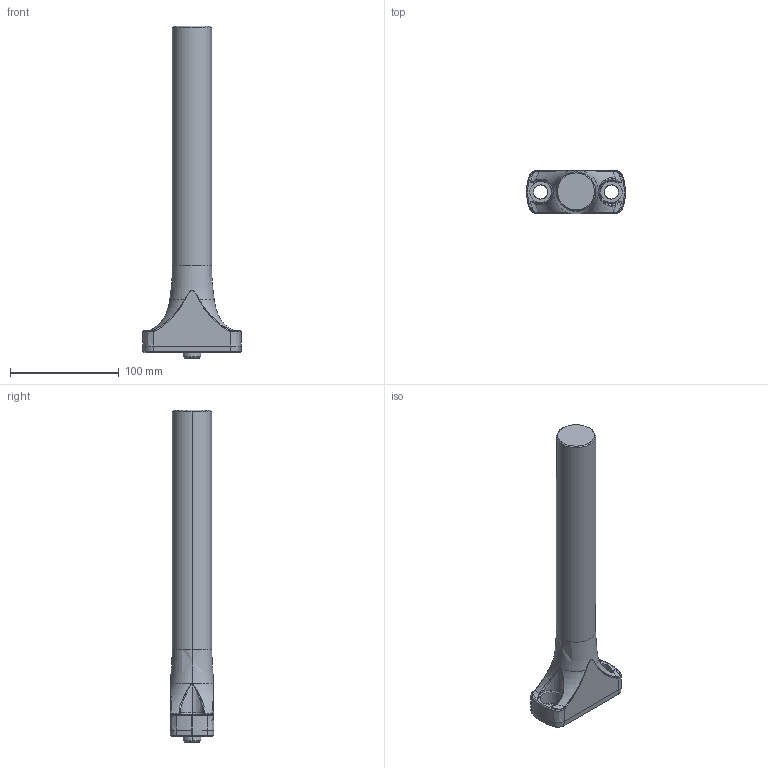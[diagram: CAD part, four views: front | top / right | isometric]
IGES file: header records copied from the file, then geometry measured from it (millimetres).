
Start section: START RECORD GO HERE.
Global section: file name: 722-01+300.igs; native system: DASSAULT SYSTEMES CATIA V5 R20 - www.3ds.com; preprocessor: CATIA Version 5 Release 20 ; author: Utente; organization: NB04-ASUS; date: 20201114.110308; units: millimetre
Bounding box: 91 x 40 x 305 mm (x, y, z)
Surface area: 45659.4 mm2 (no closed solid volume)
Topology: 0 solids, 0 shells, 123 faces, 671 edges, 666 vertices
Faces by surface type: revolution 54, bspline 54, plane 15
